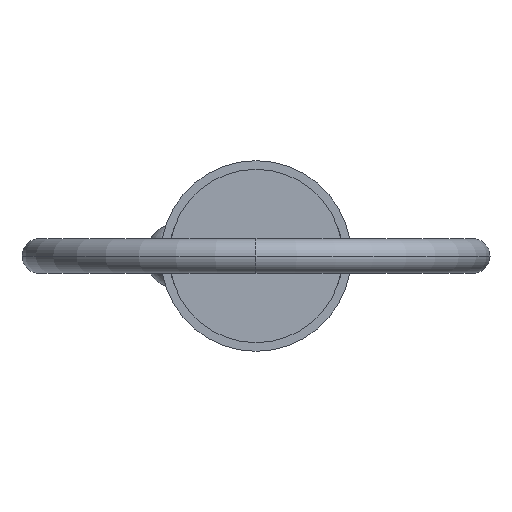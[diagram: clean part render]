
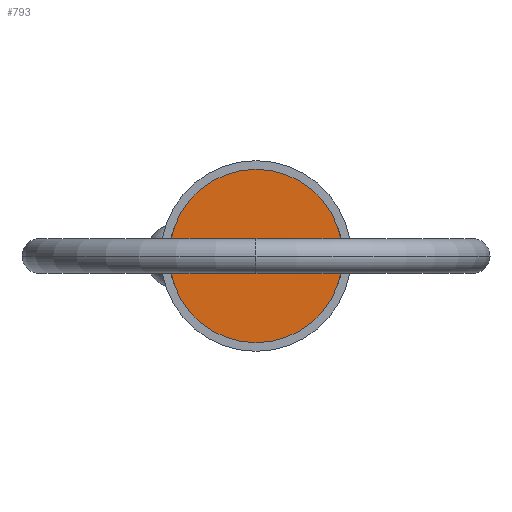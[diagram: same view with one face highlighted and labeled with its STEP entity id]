
A CAD part, left-side view. The second image highlights one B-rep face of the part: STEP entity #793.
In plain terms, the highlighted planar face has unit normal (-1, 0, 0).
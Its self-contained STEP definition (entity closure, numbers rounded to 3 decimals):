
#25 = CARTESIAN_POINT ( 'NONE',  ( 0., 0., 0. ) ) ;
#28 = AXIS2_PLACEMENT_3D ( 'NONE', #25, #99, #1020 ) ;
#99 = DIRECTION ( 'NONE',  ( 1., 0., 0. ) ) ;
#103 = CARTESIAN_POINT ( 'NONE',  ( 0., 0., 0. ) ) ;
#143 = EDGE_LOOP ( 'NONE', ( #846, #194 ) ) ;
#168 = CARTESIAN_POINT ( 'NONE',  ( 0., 0., 0. ) ) ;
#190 = FACE_OUTER_BOUND ( 'NONE', #143, .T. ) ;
#194 = ORIENTED_EDGE ( 'NONE', *, *, #540, .F. ) ;
#217 = CIRCLE ( 'NONE', #851, 12.7 ) ;
#323 = CIRCLE ( 'NONE', #28, 12.7 ) ;
#324 = DIRECTION ( 'NONE',  ( 0., 0., -1. ) ) ;
#439 = DIRECTION ( 'NONE',  ( 0., 0., 1. ) ) ;
#488 = CARTESIAN_POINT ( 'NONE',  ( 0., 0., -12.7 ) ) ;
#493 = AXIS2_PLACEMENT_3D ( 'NONE', #103, #775, #439 ) ;
#500 = DIRECTION ( 'NONE',  ( 1., 0., 0. ) ) ;
#540 = EDGE_CURVE ( 'NONE', #757, #1036, #217, .T. ) ;
#682 = CARTESIAN_POINT ( 'NONE',  ( 0., 0., 12.7 ) ) ;
#757 = VERTEX_POINT ( 'NONE', #682 ) ;
#775 = DIRECTION ( 'NONE',  ( -1., 0., 0. ) ) ;
#793 = ADVANCED_FACE ( 'NONE', ( #190 ), #935, .T. ) ;
#841 = EDGE_CURVE ( 'NONE', #1036, #757, #323, .T. ) ;
#846 = ORIENTED_EDGE ( 'NONE', *, *, #841, .F. ) ;
#851 = AXIS2_PLACEMENT_3D ( 'NONE', #168, #500, #324 ) ;
#935 = PLANE ( 'NONE',  #493 ) ;
#1020 = DIRECTION ( 'NONE',  ( 0., 0., -1. ) ) ;
#1036 = VERTEX_POINT ( 'NONE', #488 ) ;
